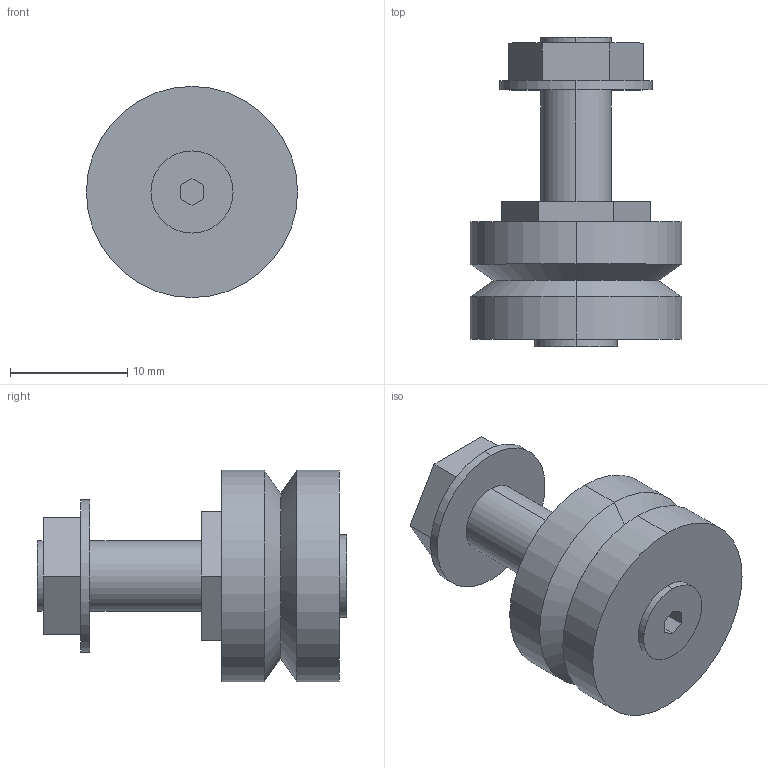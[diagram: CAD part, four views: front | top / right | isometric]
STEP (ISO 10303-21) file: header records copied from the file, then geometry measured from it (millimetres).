
FILE_DESCRIPTION(('STEP AP203'),'1');
FILE_NAME('rlj_18_c_ns.stp','2021-08-30T07:03:21',('TraceParts'),('TraceParts S.A.'),'Spatial InterOp 3D',' ',' ');
FILE_SCHEMA(('CONFIG_CONTROL_DESIGN'));
Length unit declared in the file: millimetre
Products named in the file (1): 1
Bounding box: 18 x 26.4 x 18 mm (x, y, z)
Volume: 3265.6 mm3; surface area: 1797.3 mm2
Topology: 1 solids, 1 shells, 43 faces, 96 edges, 62 vertices
Faces by surface type: plane 27, cylinder 12, cone 4
Entity records: 1232 total; most frequent: DIRECTION 210, CARTESIAN_POINT 202, ORIENTED_EDGE 192, EDGE_CURVE 96, AXIS2_PLACEMENT_3D 70, LINE 70, VECTOR 70, VERTEX_POINT 62
